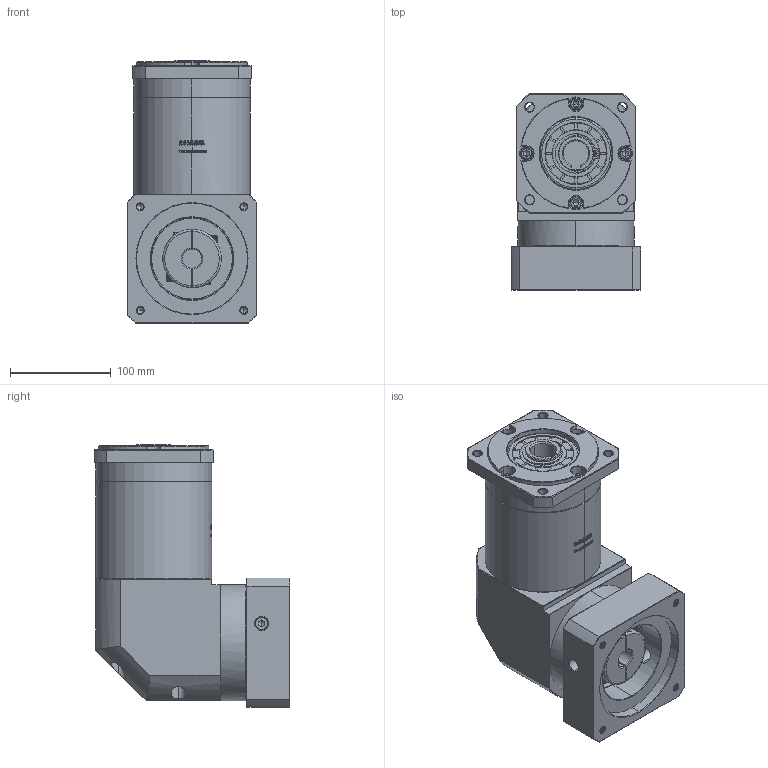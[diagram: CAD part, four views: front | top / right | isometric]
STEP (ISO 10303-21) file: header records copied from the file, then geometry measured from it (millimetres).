
FILE_DESCRIPTION (( 'STEP AP214' ), '1' );
FILE_NAME ('ZFR120A-K25-L3-19-110-145-M8.step', '2023-03-08T08:32:42', ( '' ), ( '' ), 'SwSTEP 2.0', 'SolidWorks 2016', '' );
FILE_SCHEMA (( 'AUTOMOTIVE_DESIGN' ));
Length unit declared in the file: millimetre
Products named in the file (1): ZFR120A-K25-L3-19-110-145-M8
Bounding box: 128 x 193.9 x 260 mm (x, y, z)
Volume: 3527192.7 mm3; surface area: 270052.1 mm2
Topology: 6 solids, 6 shells, 2814 faces, 7518 edges, 4849 vertices
Faces by surface type: plane 1477, bspline 598, cylinder 401, cone 330, torus 8
Entity records: 152395 total; most frequent: CARTESIAN_POINT 56868, ORIENTED_EDGE 14980, DIRECTION 10909, EDGE_CURVE 7490, VERTEX_POINT 4849, VECTOR 4695, LINE 4695, AXIS2_PLACEMENT_3D 3107
